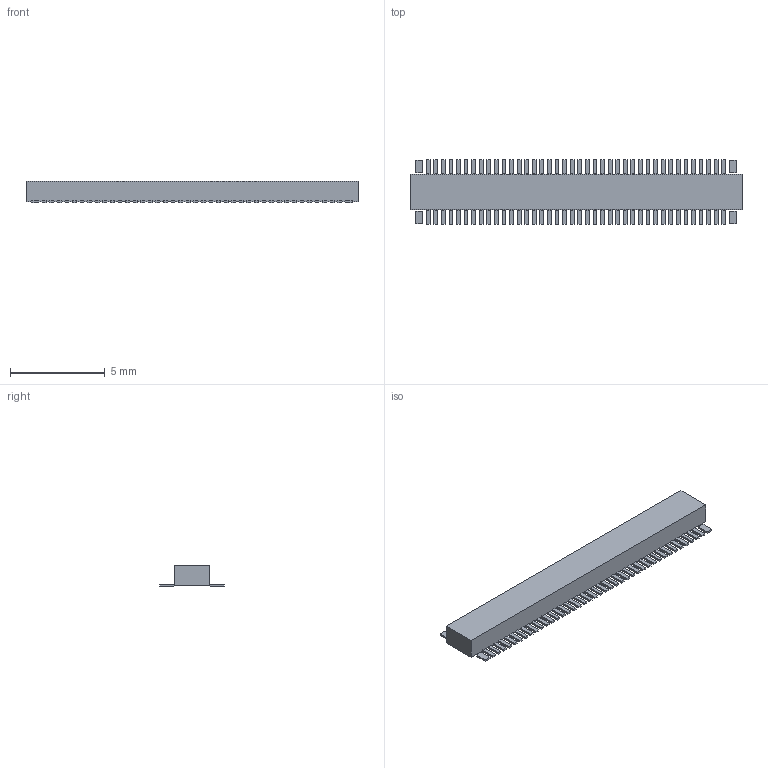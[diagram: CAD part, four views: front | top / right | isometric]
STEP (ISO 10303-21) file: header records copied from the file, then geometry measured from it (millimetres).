
FILE_DESCRIPTION(('Open CASCADE Model'),'2;1');
FILE_NAME('Open CASCADE Shape Model','2026-10-14T06:18:04',('Author'),( 'Open CASCADE'),'Open CASCADE STEP processor 7.9','Open CASCADE 7.9' ,'Unknown');
FILE_SCHEMA(('AUTOMOTIVE_DESIGN { 1 0 10303 214 1 1 1 1 }'));
Length unit declared in the file: millimetre
Products named in the file (85): Nominal simplified plug body; visual only; Preview terminal row-1 pos1; Preview terminal row1 pos1; Preview terminal row-1 pos2; Preview terminal row1 pos2; Preview terminal row-1 pos3; Preview terminal row1 pos3; Preview terminal row-1 pos4; Preview terminal row1 pos4; Preview terminal row-1 pos5; Preview terminal row1 pos5; Preview terminal row-1 pos6; Preview terminal row1 pos6; Preview terminal row-1 pos7; Preview terminal row1 pos7; Preview terminal row-1 pos8; Preview terminal row1 pos8; Preview terminal row-1 pos9; Preview terminal row1 pos9; Preview terminal row-1 pos10; Preview terminal row1 pos10; Preview terminal row-1 pos11; Preview terminal row1 pos11; Preview terminal row-1 pos12; Preview terminal row1 pos12; Preview terminal row-1 pos13; Preview terminal row1 pos13; Preview terminal row-1 pos14; Preview terminal row1 pos14; Preview terminal row-1 pos15; Preview terminal row1 pos15; Preview terminal row-1 pos16; Preview terminal row1 pos16; Preview terminal row-1 pos17; Preview terminal row1 pos17; Preview terminal row-1 pos18; Preview terminal row1 pos18; Preview terminal row-1 pos19; Preview terminal row1 pos19; Preview terminal row-1 pos20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
Bounding box: 17.52 x 3.4 x 1.14 mm (x, y, z)
Volume: 36.6 mm3; surface area: 148.9 mm2
Topology: 85 solids, 85 shells, 510 faces, 1020 edges, 680 vertices
Faces by surface type: plane 510
Entity records: 27719 total; most frequent: CARTESIAN_POINT 4251, DIRECTION 4082, LINE 3060, VECTOR 3060, ORIENTED_EDGE 2040, PCURVE 2040, DEFINITIONAL_REPRESENTATION 2040, EDGE_CURVE 1020
